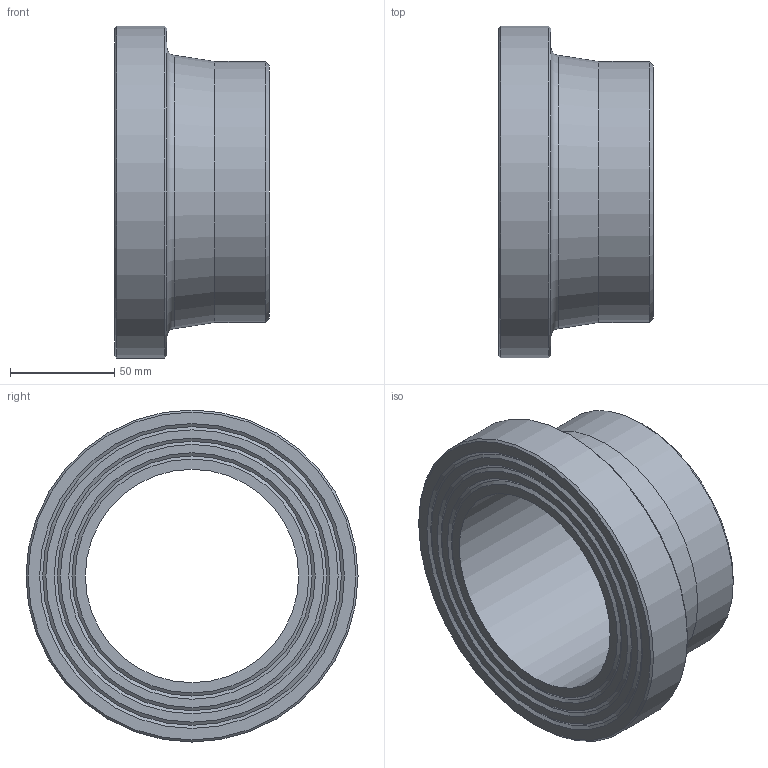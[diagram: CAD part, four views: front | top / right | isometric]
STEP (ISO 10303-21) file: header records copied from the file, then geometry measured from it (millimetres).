
FILE_DESCRIPTION(/* description */ ('Unknown'),/* implementation_level */ '2;1');
FILE_NAME(/* name */ 'CCP125C',/* time_stamp */ '2022-04-04T14:47:26+02:00',/* author */ ('Unknown'),/* organization */ ('Unknown'),/* preprocessor_version */ 'ST-DEVELOPER v18.1',/* originating_system */ 'Solid Edge',/* authorisation */ 'Unknown');
FILE_SCHEMA (('AUTOMOTIVE_DESIGN {1 0 10303 214 3 1 1}'));
Length unit declared in the file: millimetre
Products named in the file (1): CCP125C
Bounding box: 74 x 159 x 159 mm (x, y, z)
Volume: 504485.1 mm3; surface area: 77073.2 mm2
Topology: 1 solids, 1 shells, 20 faces, 35 edges, 21 vertices
Faces by surface type: cone 10, plane 6, cylinder 3, torus 1
Full cylindrical faces by diameter (mm): 102.2 x1, 125 x1, 159 x1
Entity records: 438 total; most frequent: DIRECTION 82, CARTESIAN_POINT 61, AXIS2_PLACEMENT_3D 41, ORIENTED_EDGE 40, EDGE_LOOP 40, FACE_BOUND 40, EDGE_CURVE 20, VERTEX_POINT 20
